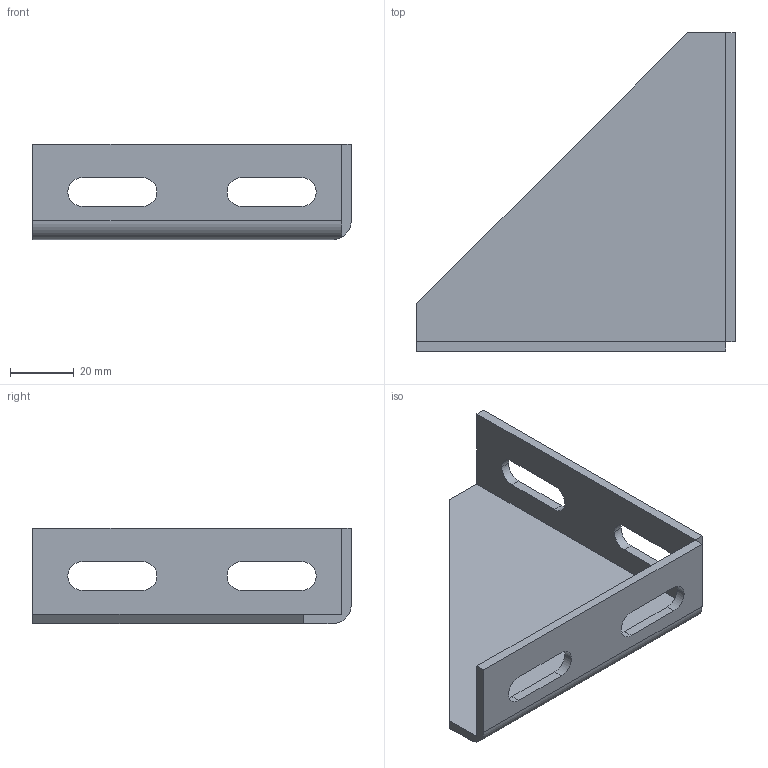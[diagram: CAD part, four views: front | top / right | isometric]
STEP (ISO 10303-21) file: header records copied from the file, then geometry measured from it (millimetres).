
FILE_DESCRIPTION (( 'STEP AP214' ), '1' );
FILE_NAME ('FBFA 100A.step', '2017-04-05T08:01:06', ( '' ), ( '' ), 'SwSTEP 2.0', 'SolidWorks 2015', '' );
FILE_SCHEMA (( 'AUTOMOTIVE_DESIGN' ));
Length unit declared in the file: millimetre
Products named in the file (1): FBFA 100A
Bounding box: 100 x 100 x 30 mm (x, y, z)
Volume: 30534.8 mm3; surface area: 22995.7 mm2
Topology: 1 solids, 1 shells, 35 faces, 98 edges, 65 vertices
Faces by surface type: plane 21, cylinder 14
Entity records: 1182 total; most frequent: CARTESIAN_POINT 202, DIRECTION 197, ORIENTED_EDGE 196, EDGE_CURVE 98, LINE 69, VECTOR 69, VERTEX_POINT 65, AXIS2_PLACEMENT_3D 64
